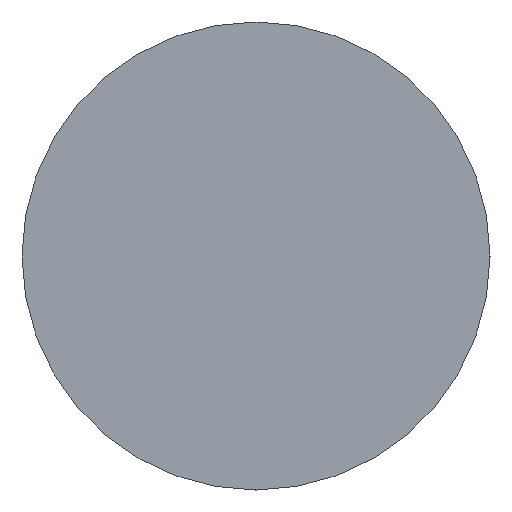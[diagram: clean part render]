
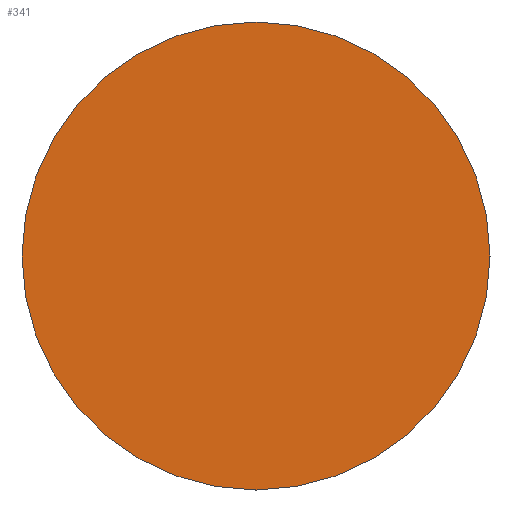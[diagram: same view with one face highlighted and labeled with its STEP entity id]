
A CAD part, left-side view. The second image highlights one B-rep face of the part: STEP entity #341.
In plain terms, the highlighted planar face has unit normal (-1, 0, 0).
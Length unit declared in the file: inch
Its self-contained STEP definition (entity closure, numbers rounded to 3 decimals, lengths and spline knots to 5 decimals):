
#1 = AXIS2_PLACEMENT_3D ( 'NONE', #219, #122, #222 ) ;
#23 = EDGE_CURVE ( 'NONE', #407, #117, #156, .T. ) ;
#32 = CARTESIAN_POINT ( 'NONE',  ( -6., 0.5, 0. ) ) ;
#117 = VERTEX_POINT ( 'NONE', #181 ) ;
#122 = DIRECTION ( 'NONE',  ( -1., 0., 0. ) ) ;
#156 = CIRCLE ( 'NONE', #1, 0.5 ) ;
#159 = ORIENTED_EDGE ( 'NONE', *, *, #254, .T. ) ;
#160 = DIRECTION ( 'NONE',  ( -1., 0., 0. ) ) ;
#181 = CARTESIAN_POINT ( 'NONE',  ( -6., 0., 0.5 ) ) ;
#192 = CARTESIAN_POINT ( 'NONE',  ( -6., 0., 0. ) ) ;
#195 = DIRECTION ( 'NONE',  ( 0., 0., 1. ) ) ;
#199 = ORIENTED_EDGE ( 'NONE', *, *, #23, .T. ) ;
#219 = CARTESIAN_POINT ( 'NONE',  ( -6., 0., 0. ) ) ;
#222 = DIRECTION ( 'NONE',  ( 0., 0., 1. ) ) ;
#254 = EDGE_CURVE ( 'NONE', #117, #407, #411, .T. ) ;
#256 = AXIS2_PLACEMENT_3D ( 'NONE', #32, #382, #321 ) ;
#287 = PLANE ( 'NONE',  #256 ) ;
#321 = DIRECTION ( 'NONE',  ( 0., 0., -1. ) ) ;
#341 = ADVANCED_FACE ( 'NONE', ( #445 ), #287, .F. ) ;
#354 = EDGE_LOOP ( 'NONE', ( #159, #199 ) ) ;
#382 = DIRECTION ( 'NONE',  ( 1., 0., 0. ) ) ;
#407 = VERTEX_POINT ( 'NONE', #423 ) ;
#410 = AXIS2_PLACEMENT_3D ( 'NONE', #192, #160, #195 ) ;
#411 = CIRCLE ( 'NONE', #410, 0.5 ) ;
#423 = CARTESIAN_POINT ( 'NONE',  ( -6., 0., -0.5 ) ) ;
#445 = FACE_OUTER_BOUND ( 'NONE', #354, .T. ) ;
